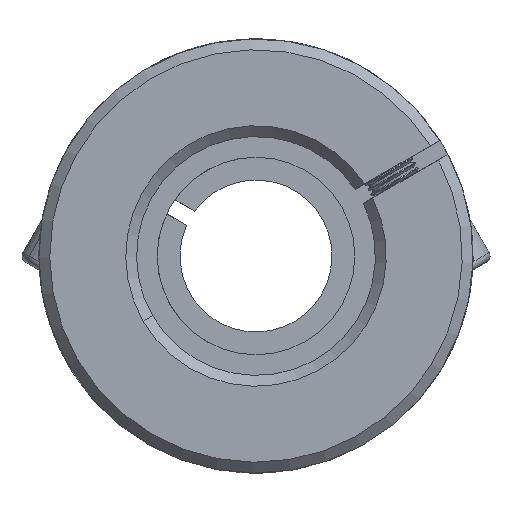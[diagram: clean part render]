
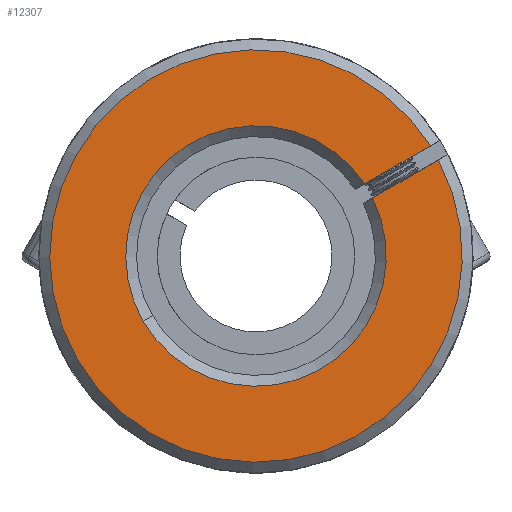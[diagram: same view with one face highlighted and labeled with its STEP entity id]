
A CAD part, front view. The second image highlights one B-rep face of the part: STEP entity #12307.
In plain terms, the highlighted planar face has unit normal (0, -1, 0).
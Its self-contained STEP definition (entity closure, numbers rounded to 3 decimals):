
#142 = EDGE_CURVE ( 'NONE', #1052, #2605, #1026, .T. ) ;
#600 = PLANE ( 'NONE',  #5369 ) ;
#1026 = CIRCLE ( 'NONE', #13720, 12. ) ;
#1052 = VERTEX_POINT ( 'NONE', #12227 ) ;
#1669 = CARTESIAN_POINT ( 'NONE',  ( 14.616, -31.239, 50.147 ) ) ;
#2605 = VERTEX_POINT ( 'NONE', #8175 ) ;
#2652 = VERTEX_POINT ( 'NONE', #1669 ) ;
#2661 = DIRECTION ( 'NONE',  ( 0., 1., 0. ) ) ;
#2867 = CARTESIAN_POINT ( 'NONE',  ( 8.431, -31.239, 44.841 ) ) ;
#4174 = ORIENTED_EDGE ( 'NONE', *, *, #5002, .T. ) ;
#4431 = CARTESIAN_POINT ( 'NONE',  ( 7.68, -31.239, 46.14 ) ) ;
#4762 = AXIS2_PLACEMENT_3D ( 'NONE', #6043, #7944, #9217 ) ;
#4823 = VERTEX_POINT ( 'NONE', #11113 ) ;
#4880 = DIRECTION ( 'NONE',  ( 0.5, 0., -0.866 ) ) ;
#4922 = VERTEX_POINT ( 'NONE', #5905 ) ;
#5002 = EDGE_CURVE ( 'NONE', #2605, #4823, #13182, .T. ) ;
#5181 = ORIENTED_EDGE ( 'NONE', *, *, #142, .T. ) ;
#5369 = AXIS2_PLACEMENT_3D ( 'NONE', #6050, #6001, #13672 ) ;
#5496 = DIRECTION ( 'NONE',  ( -0.866, 0., -0.5 ) ) ;
#5905 = CARTESIAN_POINT ( 'NONE',  ( 15.367, -31.239, 48.848 ) ) ;
#6001 = DIRECTION ( 'NONE',  ( 0., 1., 0. ) ) ;
#6043 = CARTESIAN_POINT ( 'NONE',  ( -1.447, -31.239, 40. ) ) ;
#6050 = CARTESIAN_POINT ( 'NONE',  ( 52.98, -31.239, 45.743 ) ) ;
#7552 = ORIENTED_EDGE ( 'NONE', *, *, #13327, .F. ) ;
#7577 = EDGE_CURVE ( 'NONE', #2652, #4922, #12412, .T. ) ;
#7944 = DIRECTION ( 'NONE',  ( 0., 1., 0. ) ) ;
#8045 = VECTOR ( 'NONE', #5496, 1000. ) ;
#8058 = DIRECTION ( 'NONE',  ( 0.866, 0., 0.5 ) ) ;
#8175 = CARTESIAN_POINT ( 'NONE',  ( -11.837, -31.239, 33.997 ) ) ;
#8214 = LINE ( 'NONE', #4431, #8045 ) ;
#8629 = ORIENTED_EDGE ( 'NONE', *, *, #13673, .F. ) ;
#8900 = VECTOR ( 'NONE', #8058, 1000. ) ;
#9217 = DIRECTION ( 'NONE',  ( 0.5, 0., -0.866 ) ) ;
#9465 = CARTESIAN_POINT ( 'NONE',  ( -1.447, -31.239, 40. ) ) ;
#10043 = CARTESIAN_POINT ( 'NONE',  ( -1.447, -31.239, 40. ) ) ;
#10409 = DIRECTION ( 'NONE',  ( 0., -1., 0. ) ) ;
#11009 = AXIS2_PLACEMENT_3D ( 'NONE', #9465, #10409, #12732 ) ;
#11092 = LINE ( 'NONE', #2867, #8900 ) ;
#11113 = CARTESIAN_POINT ( 'NONE',  ( 8.548, -31.239, 46.641 ) ) ;
#11199 = EDGE_LOOP ( 'NONE', ( #7552, #5181, #4174, #8629, #13625 ) ) ;
#12227 = CARTESIAN_POINT ( 'NONE',  ( 9.298, -31.239, 45.342 ) ) ;
#12307 = ADVANCED_FACE ( 'NONE', ( #12991 ), #600, .F. ) ;
#12412 = CIRCLE ( 'NONE', #11009, 19. ) ;
#12732 = DIRECTION ( 'NONE',  ( 0.5, 0., -0.866 ) ) ;
#12991 = FACE_OUTER_BOUND ( 'NONE', #11199, .T. ) ;
#13182 = CIRCLE ( 'NONE', #4762, 12. ) ;
#13327 = EDGE_CURVE ( 'NONE', #1052, #4922, #11092, .T. ) ;
#13625 = ORIENTED_EDGE ( 'NONE', *, *, #7577, .T. ) ;
#13672 = DIRECTION ( 'NONE',  ( 0.5, 0., -0.866 ) ) ;
#13673 = EDGE_CURVE ( 'NONE', #2652, #4823, #8214, .T. ) ;
#13720 = AXIS2_PLACEMENT_3D ( 'NONE', #10043, #2661, #4880 ) ;
